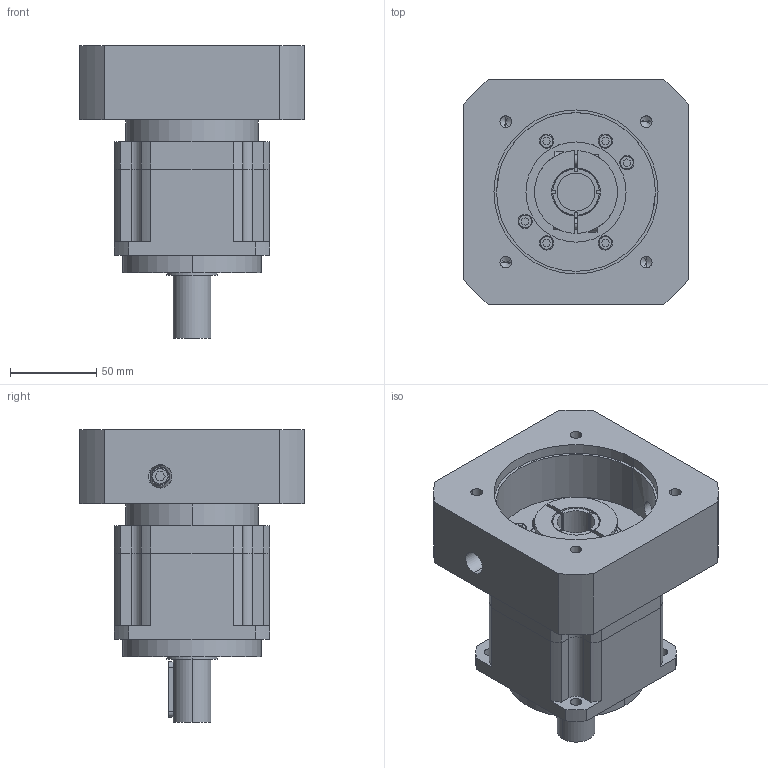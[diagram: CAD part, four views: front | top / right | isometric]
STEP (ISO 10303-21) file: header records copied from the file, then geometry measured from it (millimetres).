
FILE_DESCRIPTION (( 'STEP AP203' ), '1' );
FILE_NAME ('WAB090-L1(1KW)俋倛芞(22-60-95-115-M8).STEP', '2019-08-12T11:53:42', ( 'Windows' ), ( 'Microsoft' ), 'SwSTEP 2.0', 'SolidWorks 2016', '' );
FILE_SCHEMA (( 'CONFIG_CONTROL_DESIGN' ));
Length unit declared in the file: millimetre
Products named in the file (1): WAB090-L1(1KW)俋倛芞(22-60-95-115-M8)
Bounding box: 130 x 130 x 169.5 mm (x, y, z)
Volume: 1065681.6 mm3; surface area: 134285.7 mm2
Topology: 3 solids, 3 shells, 348 faces, 899 edges, 576 vertices
Faces by surface type: plane 180, cylinder 142, bspline 16, cone 10
Entity records: 11358 total; most frequent: CARTESIAN_POINT 2694, DIRECTION 1821, ORIENTED_EDGE 1778, EDGE_CURVE 889, AXIS2_PLACEMENT_3D 650, VERTEX_POINT 576, VECTOR 521, LINE 521
